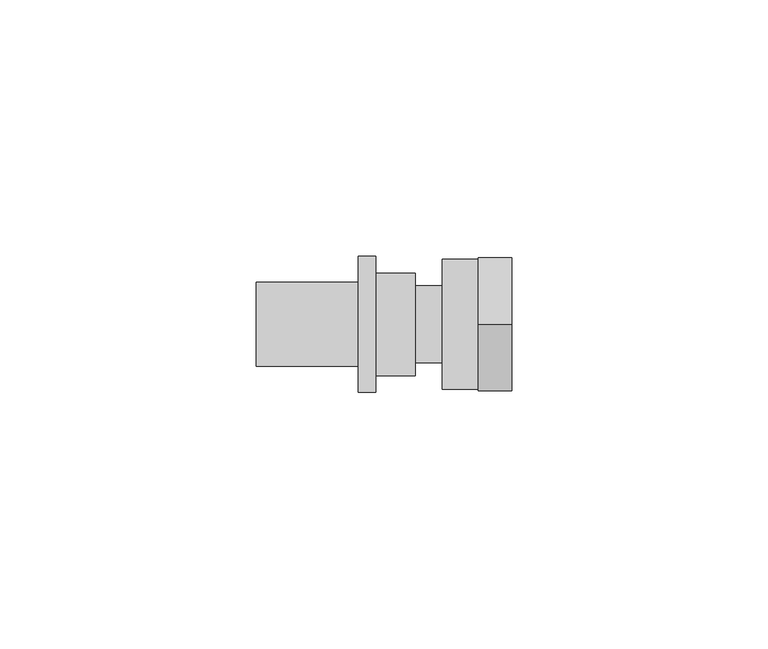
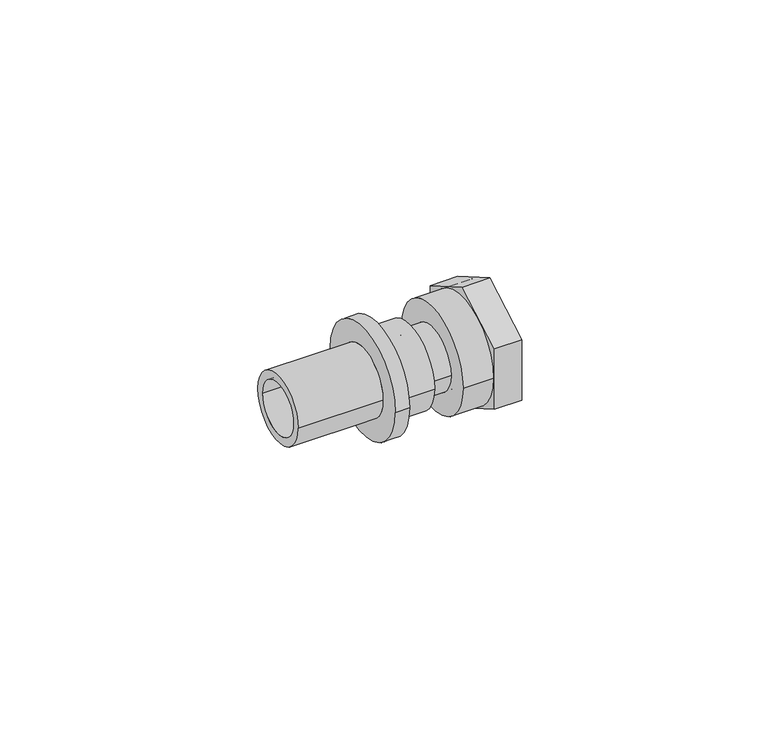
"""IFC4 building model written with IfcOpenShell, lengths in millimetres: pipe fitting geometry, REHAU_RAUTITAN_Adaptor_RX+_union nut : REHAU_RAUTITAN_Adaptor_RX+_union nut."""

from ifc_helpers import new_model, si_unit, point, frame, origin, origin_2d, place, context, project, spatial, polyline, circle_curve, trimmed, segment, composite_curve, outline, extrude, source, transform, mapped, element, save
from ifc_brep_helpers import plane_surface, cylinder_surface, revolved_surface, advanced_brep


def pipe_fitting_e5cdf9b6(model_context):
    return source(origin(), model_context, "Body", "SolidModel", [
        extrude(outline(polyline([(0.0, -15.011107), (-13.0, -7.5055535), (-13.0, 7.5055535), (0.0, 15.011107), (13.0, 7.5055535), (13.0, -7.5055535), (0.0, -15.011107)]), holes=[composite_curve([segment(trimmed(circle_curve(origin_2d(), 12.65), [point((-12.65, 0.0))], [point((12.65, 0.0))], True, "CARTESIAN"), True, "CONTINUOUS"), segment(trimmed(circle_curve(origin_2d(), 12.65), [point((12.65, 0.0))], [point((-12.65, 0.0))], True, "CARTESIAN"), True, "CONTINUOUS")], self_intersect=False)]), frame((12.3, 0.0, 0.0), z_axis=(1.0, 0.0, 0.0), x_axis=(0.0, 1.0, 0.0)), (0.0, 0.0, 1.0), 6.5),
        advanced_brep(
        [(18.8, 12.65, 0.0), (18.8, -12.65, 0.0), (5.3, -12.65, 0.0), (5.3, 12.65, 0.0), (7.0, 9.25, 0.0), (7.0, -9.25, 0.0), (18.8, -9.25, 0.0), (18.8, 9.25, 0.0), (5.3, 7.55, 0.0), (5.3, -7.55, 0.0), (7.0, -7.55, 0.0), (7.0, 7.55, 0.0)],
        [
            (0, 1, circle_curve(frame((18.8, 0.0, 0.0), z_axis=(-1.0, 0.0, 0.0), x_axis=(0.0, -1.0, 0.0)), 12.65)),
            (1, 2),
            (2, 3, circle_curve(frame((5.3, 0.0, 0.0), z_axis=(1.0, 0.0, 0.0), x_axis=(0.0, -1.0, 0.0)), 12.65)),
            (3, 0),
            (4, 5, circle_curve(frame((7.0, 0.0, 0.0), z_axis=(-1.0, 0.0, 0.0), x_axis=(0.0, -1.0, 0.0)), 9.25)),
            (5, 6),
            (6, 7, circle_curve(frame((18.8, 0.0, 0.0), z_axis=(1.0, 0.0, 0.0), x_axis=(0.0, -1.0, 0.0)), 9.25)),
            (7, 4),
            (8, 9, circle_curve(frame((5.3, 0.0, 0.0), z_axis=(-1.0, 0.0, 0.0), x_axis=(0.0, -1.0, 0.0)), 7.55)),
            (9, 10),
            (10, 11, circle_curve(frame((7.0, 0.0, 0.0), z_axis=(1.0, 0.0, 0.0), x_axis=(0.0, -1.0, 0.0)), 7.55)),
            (11, 8),
            (1, 0, circle_curve(frame((18.8, 0.0, 0.0), z_axis=(-1.0, 0.0, 0.0), x_axis=(0.0, 1.0, 0.0)), 12.65)),
            (3, 2, circle_curve(frame((5.3, 0.0, 0.0), z_axis=(1.0, 0.0, 0.0), x_axis=(0.0, 1.0, 0.0)), 12.65)),
            (6, 7, circle_curve(frame((18.8, 0.0, 0.0), z_axis=(-1.0, 0.0, 0.0), x_axis=(0.0, 1.0, 0.0)), 9.25)),
            (5, 4, circle_curve(frame((7.0, 0.0, 0.0), z_axis=(-1.0, 0.0, 0.0), x_axis=(0.0, 1.0, 0.0)), 9.25)),
            (10, 11, circle_curve(frame((7.0, 0.0, 0.0), z_axis=(-1.0, 0.0, 0.0), x_axis=(0.0, 1.0, 0.0)), 7.55)),
            (9, 8, circle_curve(frame((5.3, 0.0, 0.0), z_axis=(-1.0, 0.0, 0.0), x_axis=(0.0, 1.0, 0.0)), 7.55)),
        ],
        [
            cylinder_surface(frame((0.0, 0.0, 0.0), z_axis=(1.0, 0.0, 0.0), x_axis=(0.0, -1.0, 0.0)), 12.65),
            revolved_surface(polyline([(18.8, -9.25, 0.0), (7.0, -9.25, 0.0)]), (0.0, 0.0, 0.0), (1.0, 0.0, 0.0)),
            revolved_surface(polyline([(7.0, -7.55, 0.0), (5.3, -7.55, 0.0)]), (0.0, 0.0, 0.0), (1.0, 0.0, 0.0)),
            cylinder_surface(frame((0.0, 0.0, 0.0), z_axis=(1.0, 0.0, 0.0), x_axis=(0.0, 1.0, 0.0)), 12.65),
            plane_surface(frame((18.8, 0.0, 0.0), z_axis=(1.0, 0.0, 0.0), x_axis=(0.0, 1.0, 0.0))),
            revolved_surface(polyline([(18.8, 9.25, 0.0), (7.0, 9.25, 0.0)]), (0.0, 0.0, 0.0), (1.0, 0.0, 0.0)),
            plane_surface(frame((7.0, 0.0, 0.0), z_axis=(1.0, 0.0, 0.0), x_axis=(0.0, 1.0, 0.0))),
            revolved_surface(polyline([(7.0, 7.55, 0.0), (5.3, 7.55, 0.0)]), (0.0, 0.0, 0.0), (1.0, 0.0, 0.0)),
            plane_surface(frame((5.3, 0.0, 0.0), z_axis=(-1.0, 0.0, 0.0), x_axis=(0.0, 1.0, 0.0))),
        ],
        [
            (0, [[1, 2, 3, 4]]),
            (1, [[5, 6, 7, 8]]),
            (2, [[9, 10, 11, 12]]),
            (3, [[13, -4, 14, -2]]),
            (4, [[-13, -1], [15, -7]]),
            (5, [[16, -8, -15, -6]]),
            (6, [[-16, -5], [17, -11]]),
            (7, [[18, -12, -17, -10]]),
            (8, [[-14, -3], [-18, -9]]),
        ],
    ),
        advanced_brep(
        [(7.0, 7.5, 0.0), (7.0, -7.5, 0.0), (0.0, -7.5, 0.0), (0.0, 7.5, 0.0), (10.0, 9.25, 0.0), (10.0, -9.25, 0.0), (7.0, -9.25, 0.0), (7.0, 9.25, 0.0), (1.4730817, 5.4, 0.0), (1.4730817, -5.4, 0.0), (10.0, -5.4, 0.0), (10.0, 5.4, 0.0), (0.0, 3.2264556, 0.0), (0.0, -3.2264556, 0.0), (1.4730817, -3.2264556, 0.0), (1.4730817, 3.2264556, 0.0)],
        [
            (0, 1, circle_curve(frame((7.0, 0.0, 0.0), z_axis=(-1.0, 0.0, 0.0), x_axis=(0.0, -1.0, 0.0)), 7.5)),
            (1, 2),
            (2, 3, circle_curve(frame((0.0, 0.0, 0.0), z_axis=(1.0, 0.0, 0.0), x_axis=(0.0, -1.0, 0.0)), 7.5)),
            (3, 0),
            (4, 5, circle_curve(frame((10.0, 0.0, 0.0), z_axis=(-1.0, 0.0, 0.0), x_axis=(0.0, -1.0, 0.0)), 9.25)),
            (5, 6),
            (6, 7, circle_curve(frame((7.0, 0.0, 0.0), z_axis=(1.0, 0.0, 0.0), x_axis=(0.0, -1.0, 0.0)), 9.25)),
            (7, 4),
            (8, 9, circle_curve(frame((1.4730817, 0.0, 0.0), z_axis=(-1.0, 0.0, 0.0), x_axis=(0.0, -1.0, 0.0)), 5.4)),
            (9, 10),
            (10, 11, circle_curve(frame((10.0, 0.0, 0.0), z_axis=(1.0, 0.0, 0.0), x_axis=(0.0, -1.0, 0.0)), 5.4)),
            (11, 8),
            (2, 3, circle_curve(frame((0.0, 0.0, 0.0), z_axis=(-1.0, 0.0, 0.0), x_axis=(0.0, 1.0, 0.0)), 7.5)),
            (12, 13, circle_curve(frame((0.0, 0.0, 0.0), z_axis=(1.0, 0.0, 0.0), x_axis=(0.0, 1.0, 0.0)), 3.2264556)),
            (13, 12, circle_curve(frame((0.0, 0.0, 0.0), z_axis=(1.0, 0.0, 0.0), x_axis=(0.0, -1.0, 0.0)), 3.2264556)),
            (1, 0, circle_curve(frame((7.0, 0.0, 0.0), z_axis=(-1.0, 0.0, 0.0), x_axis=(0.0, 1.0, 0.0)), 7.5)),
            (6, 7, circle_curve(frame((7.0, 0.0, 0.0), z_axis=(-1.0, 0.0, 0.0), x_axis=(0.0, 1.0, 0.0)), 9.25)),
            (5, 4, circle_curve(frame((10.0, 0.0, 0.0), z_axis=(-1.0, 0.0, 0.0), x_axis=(0.0, 1.0, 0.0)), 9.25)),
            (10, 11, circle_curve(frame((10.0, 0.0, 0.0), z_axis=(-1.0, 0.0, 0.0), x_axis=(0.0, 1.0, 0.0)), 5.4)),
            (9, 8, circle_curve(frame((1.4730817, 0.0, 0.0), z_axis=(-1.0, 0.0, 0.0), x_axis=(0.0, 1.0, 0.0)), 5.4)),
            (13, 14),
            (14, 15, circle_curve(frame((1.4730817, 0.0, 0.0), z_axis=(1.0, 0.0, 0.0), x_axis=(0.0, -1.0, 0.0)), 3.2264556)),
            (15, 12),
            (14, 15, circle_curve(frame((1.4730817, 0.0, 0.0), z_axis=(-1.0, 0.0, 0.0), x_axis=(0.0, 1.0, 0.0)), 3.2264556)),
        ],
        [
            cylinder_surface(frame((0.0, 0.0, 0.0), z_axis=(1.0, 0.0, 0.0), x_axis=(0.0, -1.0, 0.0)), 7.5),
            cylinder_surface(frame((0.0, 0.0, 0.0), z_axis=(1.0, 0.0, 0.0), x_axis=(0.0, -1.0, 0.0)), 9.25),
            revolved_surface(polyline([(10.0, -5.4, 0.0), (1.4730817, -5.4, 0.0)]), (0.0, 0.0, 0.0), (1.0, 0.0, 0.0)),
            plane_surface(frame((0.0, 0.0, 0.0), z_axis=(-1.0, 0.0, 0.0), x_axis=(0.0, 1.0, 0.0))),
            cylinder_surface(frame((0.0, 0.0, 0.0), z_axis=(1.0, 0.0, 0.0), x_axis=(0.0, 1.0, 0.0)), 7.5),
            plane_surface(frame((7.0, 0.0, 0.0), z_axis=(-1.0, 0.0, 0.0), x_axis=(0.0, 1.0, 0.0))),
            cylinder_surface(frame((0.0, 0.0, 0.0), z_axis=(1.0, 0.0, 0.0), x_axis=(0.0, 1.0, 0.0)), 9.25),
            plane_surface(frame((10.0, 0.0, 0.0), z_axis=(1.0, 0.0, 0.0), x_axis=(0.0, 1.0, 0.0))),
            revolved_surface(polyline([(10.0, 5.4, 0.0), (1.4730817, 5.4, 0.0)]), (0.0, 0.0, 0.0), (1.0, 0.0, 0.0)),
            revolved_surface(polyline([(1.4730817, -3.2264556, 0.0), (0.0, -3.2264556, 0.0)]), (0.0, 0.0, 0.0), (1.0, 0.0, 0.0)),
            plane_surface(frame((1.4730817, 0.0, 0.0), z_axis=(1.0, 0.0, 0.0), x_axis=(0.0, 1.0, 0.0))),
            revolved_surface(polyline([(1.4730817, 3.2264556, 0.0), (0.0, 3.2264556, 0.0)]), (0.0, 0.0, 0.0), (1.0, 0.0, 0.0)),
        ],
        [
            (0, [[1, 2, 3, 4]]),
            (1, [[5, 6, 7, 8]]),
            (2, [[9, 10, 11, 12]]),
            (3, [[13, -3], [14, 15]]),
            (4, [[16, -4, -13, -2]]),
            (5, [[17, -7], [-16, -1]]),
            (6, [[18, -8, -17, -6]]),
            (7, [[-18, -5], [19, -11]]),
            (8, [[20, -12, -19, -10]]),
            (9, [[-15, 21, 22, 23]]),
            (10, [[-20, -9], [24, -22]]),
            (11, [[-14, -23, -24, -21]]),
        ],
    ),
        advanced_brep(
        [(0.0, 10.0, 0.0), (0.0, -10.0, 0.0), (-7.74, -10.0, 0.0), (-7.74, 10.0, 0.0), (-31.0, 6.25, 0.0), (-31.0, -6.25, 0.0), (0.0, -6.25, 0.0), (0.0, 6.25, 0.0), (-11.09, 8.225, 0.0), (-11.09, -8.225, 0.0), (-31.0, -8.225, 0.0), (-31.0, 8.225, 0.0), (-7.74, 13.25, 0.0), (-7.74, -13.25, 0.0), (-11.09, -13.25, 0.0), (-11.09, 13.25, 0.0)],
        [
            (0, 1, circle_curve(frame((0.0, 0.0, 0.0), z_axis=(-1.0, 0.0, 0.0), x_axis=(0.0, -1.0, 0.0)), 10.0)),
            (1, 2),
            (2, 3, circle_curve(frame((-7.74, 0.0, 0.0), z_axis=(1.0, 0.0, 0.0), x_axis=(0.0, -1.0, 0.0)), 10.0)),
            (3, 0),
            (4, 5, circle_curve(frame((-31.0, 0.0, 0.0), z_axis=(-1.0, 0.0, 0.0), x_axis=(0.0, -1.0, 0.0)), 6.25)),
            (5, 6),
            (6, 7, circle_curve(frame((0.0, 0.0, 0.0), z_axis=(1.0, 0.0, 0.0), x_axis=(0.0, -1.0, 0.0)), 6.25)),
            (7, 4),
            (8, 9, circle_curve(frame((-11.09, 0.0, 0.0), z_axis=(-1.0, 0.0, 0.0), x_axis=(0.0, -1.0, 0.0)), 8.225)),
            (9, 10),
            (10, 11, circle_curve(frame((-31.0, 0.0, 0.0), z_axis=(1.0, 0.0, 0.0), x_axis=(0.0, -1.0, 0.0)), 8.225)),
            (11, 8),
            (12, 13, circle_curve(frame((-7.74, 0.0, 0.0), z_axis=(-1.0, 0.0, 0.0), x_axis=(0.0, -1.0, 0.0)), 13.25)),
            (13, 14),
            (14, 15, circle_curve(frame((-11.09, 0.0, 0.0), z_axis=(1.0, 0.0, 0.0), x_axis=(0.0, -1.0, 0.0)), 13.25)),
            (15, 12),
            (1, 0, circle_curve(frame((0.0, 0.0, 0.0), z_axis=(-1.0, 0.0, 0.0), x_axis=(0.0, 1.0, 0.0)), 10.0)),
            (3, 2, circle_curve(frame((-7.74, 0.0, 0.0), z_axis=(1.0, 0.0, 0.0), x_axis=(0.0, 1.0, 0.0)), 10.0)),
            (6, 7, circle_curve(frame((0.0, 0.0, 0.0), z_axis=(-1.0, 0.0, 0.0), x_axis=(0.0, 1.0, 0.0)), 6.25)),
            (5, 4, circle_curve(frame((-31.0, 0.0, 0.0), z_axis=(-1.0, 0.0, 0.0), x_axis=(0.0, 1.0, 0.0)), 6.25)),
            (10, 11, circle_curve(frame((-31.0, 0.0, 0.0), z_axis=(-1.0, 0.0, 0.0), x_axis=(0.0, 1.0, 0.0)), 8.225)),
            (9, 8, circle_curve(frame((-11.09, 0.0, 0.0), z_axis=(-1.0, 0.0, 0.0), x_axis=(0.0, 1.0, 0.0)), 8.225)),
            (14, 15, circle_curve(frame((-11.09, 0.0, 0.0), z_axis=(-1.0, 0.0, 0.0), x_axis=(0.0, 1.0, 0.0)), 13.25)),
            (13, 12, circle_curve(frame((-7.74, 0.0, 0.0), z_axis=(-1.0, 0.0, 0.0), x_axis=(0.0, 1.0, 0.0)), 13.25)),
        ],
        [
            cylinder_surface(frame((0.0, 0.0, 0.0), z_axis=(1.0, 0.0, 0.0), x_axis=(0.0, -1.0, 0.0)), 10.0),
            revolved_surface(polyline([(0.0, -6.25, 0.0), (-31.0, -6.25, 0.0)]), (0.0, 0.0, 0.0), (1.0, 0.0, 0.0)),
            cylinder_surface(frame((0.0, 0.0, 0.0), z_axis=(1.0, 0.0, 0.0), x_axis=(0.0, -1.0, 0.0)), 8.225),
            cylinder_surface(frame((0.0, 0.0, 0.0), z_axis=(1.0, 0.0, 0.0), x_axis=(0.0, -1.0, 0.0)), 13.25),
            cylinder_surface(frame((0.0, 0.0, 0.0), z_axis=(1.0, 0.0, 0.0), x_axis=(0.0, 1.0, 0.0)), 10.0),
            plane_surface(frame((0.0, 0.0, 0.0), z_axis=(1.0, 0.0, 0.0), x_axis=(0.0, 1.0, 0.0))),
            revolved_surface(polyline([(0.0, 6.25, 0.0), (-31.0, 6.25, 0.0)]), (0.0, 0.0, 0.0), (1.0, 0.0, 0.0)),
            plane_surface(frame((-31.0, 0.0, 0.0), z_axis=(-1.0, 0.0, 0.0), x_axis=(0.0, 1.0, 0.0))),
            cylinder_surface(frame((0.0, 0.0, 0.0), z_axis=(1.0, 0.0, 0.0), x_axis=(0.0, 1.0, 0.0)), 8.225),
            plane_surface(frame((-11.09, 0.0, 0.0), z_axis=(-1.0, 0.0, 0.0), x_axis=(0.0, 1.0, 0.0))),
            cylinder_surface(frame((0.0, 0.0, 0.0), z_axis=(1.0, 0.0, 0.0), x_axis=(0.0, 1.0, 0.0)), 13.25),
            plane_surface(frame((-7.74, 0.0, 0.0), z_axis=(1.0, 0.0, 0.0), x_axis=(0.0, 1.0, 0.0))),
        ],
        [
            (0, [[1, 2, 3, 4]]),
            (1, [[5, 6, 7, 8]]),
            (2, [[9, 10, 11, 12]]),
            (3, [[13, 14, 15, 16]]),
            (4, [[17, -4, 18, -2]]),
            (5, [[-17, -1], [19, -7]]),
            (6, [[20, -8, -19, -6]]),
            (7, [[21, -11], [-20, -5]]),
            (8, [[22, -12, -21, -10]]),
            (9, [[23, -15], [-22, -9]]),
            (10, [[24, -16, -23, -14]]),
            (11, [[-24, -13], [-18, -3]]),
        ],
    ),
    ])


if __name__ == "__main__":
    model = new_model("IFC4")
    model_context = context("Model", 3, world=origin())
    ifc_project = project(units=[si_unit("LENGTHUNIT", "METRE", prefix="MILLI")], contexts=[model_context])
    site = spatial("IfcSite", under=ifc_project)
    building = spatial("IfcBuilding", under=site)
    placement = place(None, origin())
    pipe_fitting_shape = pipe_fitting_e5cdf9b6(model_context)
    element("IfcPipeFitting", 1, ObjectType="REHAU_RAUTITAN_Adaptor_RX+_union nut : REHAU_RAUTITAN_Adaptor_RX+_union nut", at=placement, inside=building, context=model_context, shape_type="MappedRepresentation", body=[
        mapped(pipe_fitting_shape, transform((0.0, 0.0, 0.0), x_axis=(1.0, 0.0, 0.0), y_axis=(0.0, 1.0, 0.0), z_axis=(0.0, 0.0, 1.0))),
    ])
    save(model, "model.ifc")
